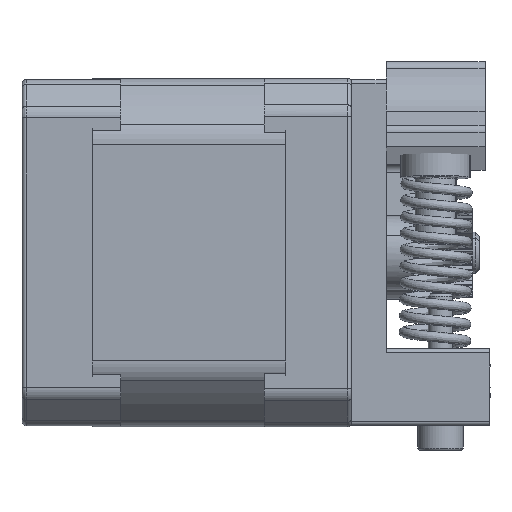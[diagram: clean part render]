
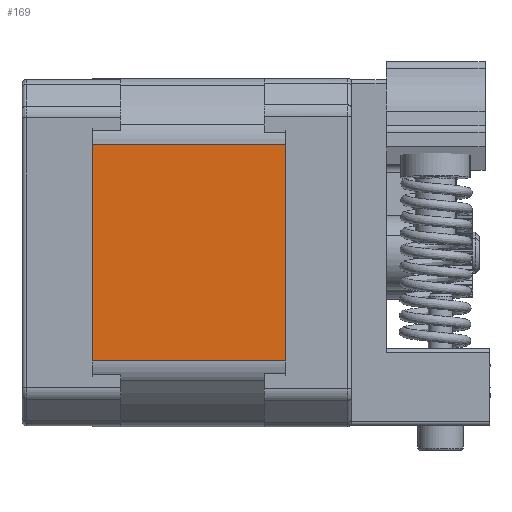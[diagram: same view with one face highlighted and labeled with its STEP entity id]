
A CAD part, left-side view. The second image highlights one B-rep face of the part: STEP entity #169.
In plain terms, the highlighted planar face has unit normal (-1, 0, 0) as drawn and (1, 0, 0) by its records, which use the part's own axes.
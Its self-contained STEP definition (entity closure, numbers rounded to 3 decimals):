
#169=ADVANCED_FACE('',(#918),#11083,.T.);
#918=FACE_OUTER_BOUND('',#1677,.T.);
#1677=EDGE_LOOP('',(#2580,#2581,#2582,#2583));
#2580=ORIENTED_EDGE('',*,*,#6238,.F.);
#2581=ORIENTED_EDGE('',*,*,#6221,.F.);
#2582=ORIENTED_EDGE('',*,*,#6239,.F.);
#2583=ORIENTED_EDGE('',*,*,#6227,.T.);
#6221=EDGE_CURVE('',#9938,#9939,#8067,.T.);
#6227=EDGE_CURVE('',#9961,#9960,#8073,.T.);
#6238=EDGE_CURVE('',#9939,#9960,#8078,.T.);
#6239=EDGE_CURVE('',#9961,#9938,#8079,.T.);
#8067=B_SPLINE_CURVE_WITH_KNOTS('',1,(#13165,#13166),.UNSPECIFIED.,.F.,
 .F.,(2,2),(0.,26.263),.UNSPECIFIED.);
#8073=B_SPLINE_CURVE_WITH_KNOTS('',1,(#13177,#13178),.UNSPECIFIED.,.F.,
 .F.,(2,2),(0.,26.263),.UNSPECIFIED.);
#8078=B_SPLINE_CURVE_WITH_KNOTS('',1,(#13205,#13206),.UNSPECIFIED.,.F.,
 .F.,(2,2),(-23.5,0.),.UNSPECIFIED.);
#8079=B_SPLINE_CURVE_WITH_KNOTS('',1,(#13207,#13208),.UNSPECIFIED.,.F.,
 .F.,(2,2),(-23.5,0.),.UNSPECIFIED.);
#9938=VERTEX_POINT('',#13067);
#9939=VERTEX_POINT('',#13068);
#9960=VERTEX_POINT('',#13089);
#9961=VERTEX_POINT('',#13090);
#11083=PLANE('',#11852);
#11852=AXIS2_PLACEMENT_3D('',#12787,#12248,$);
#12248=DIRECTION('',(1.,0.,0.));
#12787=CARTESIAN_POINT('',(121.85,-84.349,336.48));
#13067=CARTESIAN_POINT('',(121.85,-110.2,307.59));
#13068=CARTESIAN_POINT('',(121.85,-110.2,333.853));
#13089=CARTESIAN_POINT('',(121.85,-86.7,333.853));
#13090=CARTESIAN_POINT('',(121.85,-86.7,307.59));
#13165=CARTESIAN_POINT('',(121.85,-110.2,307.59));
#13166=CARTESIAN_POINT('',(121.85,-110.2,333.853));
#13177=CARTESIAN_POINT('',(121.85,-86.7,307.59));
#13178=CARTESIAN_POINT('',(121.85,-86.7,333.853));
#13205=CARTESIAN_POINT('',(121.85,-110.2,333.853));
#13206=CARTESIAN_POINT('',(121.85,-86.7,333.853));
#13207=CARTESIAN_POINT('',(121.85,-86.7,307.59));
#13208=CARTESIAN_POINT('',(121.85,-110.2,307.59));
